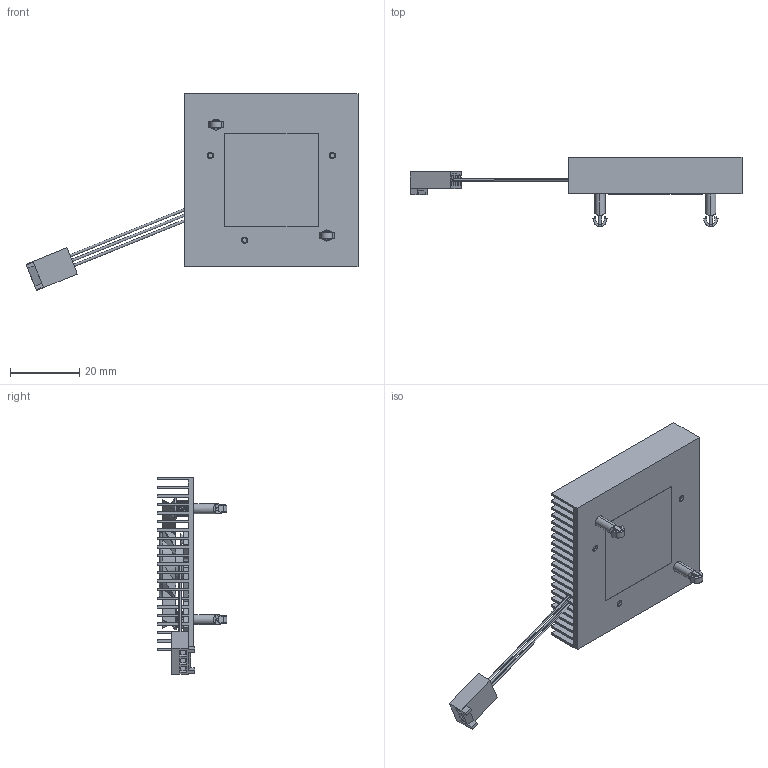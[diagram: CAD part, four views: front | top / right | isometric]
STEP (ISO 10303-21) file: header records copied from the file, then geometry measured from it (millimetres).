
FILE_DESCRIPTION (( 'STEP AP214' ), '1' );
FILE_NAME ('SZ12S+P.STEP', '2023-02-15T01:18:00', ( '' ), ( '' ), 'SwSTEP 2.0', 'SolidWorks 2020', '' );
FILE_SCHEMA (( 'AUTOMOTIVE_DESIGN' ));
Length unit declared in the file: inch
Products named in the file (1): SZ12S+P
Bounding box: 95.86 x 20.1 x 56.87 mm (x, y, z)
Volume: 9402.1 mm3; surface area: 20148.1 mm2
Topology: 9 solids, 9 shells, 999 faces, 2714 edges, 1779 vertices
Faces by surface type: plane 585, bspline 220, cylinder 150, cone 42, torus 2
Entity records: 60100 total; most frequent: CARTESIAN_POINT 23679, ORIENTED_EDGE 5400, DIRECTION 3890, EDGE_CURVE 2700, VERTEX_POINT 1779, VECTOR 1674, LINE 1674, AXIS2_PLACEMENT_3D 1108
